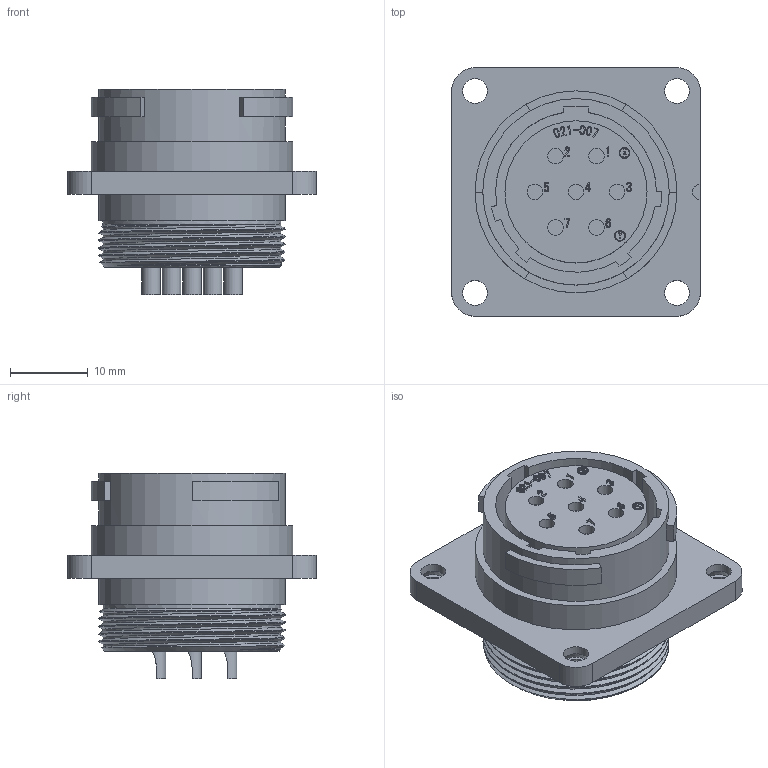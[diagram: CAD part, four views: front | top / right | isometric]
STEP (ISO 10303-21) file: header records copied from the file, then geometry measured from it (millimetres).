
FILE_DESCRIPTION (( 'STEP AP203' ), '1' );
FILE_NAME ('WEBR2107FS-D(R1).STEP', '2021-07-26T08:53:12', ( '' ), ( '' ), 'SwSTEP 2.0', 'SolidWorks 2018', '' );
FILE_SCHEMA (( 'CONFIG_CONTROL_DESIGN' ));
Length unit declared in the file: millimetre
Products named in the file (1): WEBR2107FS-D(R1)
Bounding box: 32 x 32 x 26.4 mm (x, y, z)
Volume: 10057.4 mm3; surface area: 6854 mm2
Topology: 1 solids, 1 shells, 552 faces, 1445 edges, 955 vertices
Faces by surface type: plane 254, bspline 212, cylinder 73, cone 13
Full cylindrical faces by diameter (mm): 1.2 x3, 1.4 x3, 1.7 x7, 2 x7, 2.4 x7, 3.2 x8, 18.1 x1, 18.3 x1, 22.92 x1, 23.96 x1, 24 x1, 26 x1, 26.2 x1
Entity records: 25147 total; most frequent: CARTESIAN_POINT 13127, ORIENTED_EDGE 2758, DIRECTION 1762, EDGE_CURVE 1379, VERTEX_POINT 943, VECTOR 786, LINE 786, EDGE_LOOP 674
